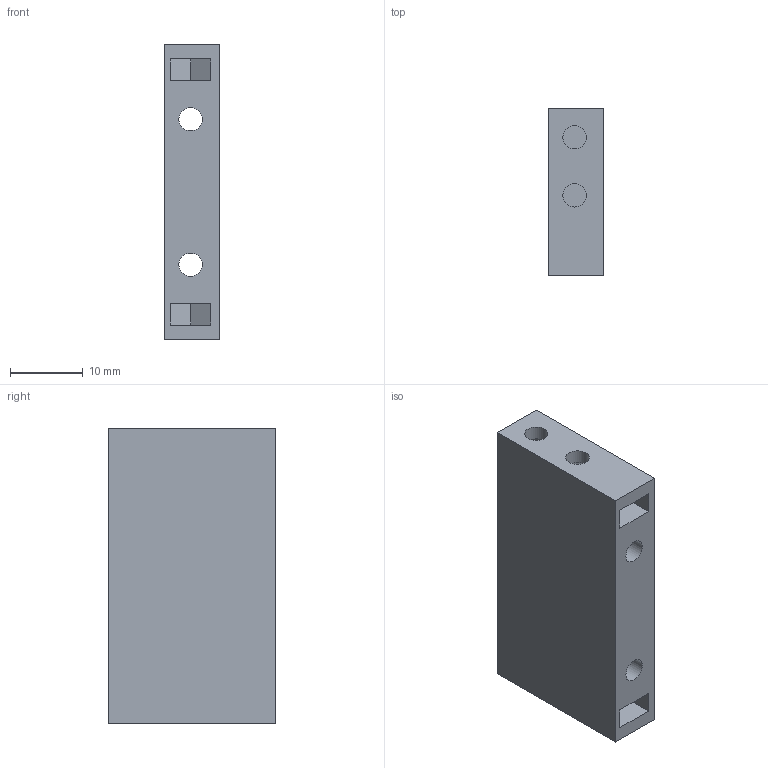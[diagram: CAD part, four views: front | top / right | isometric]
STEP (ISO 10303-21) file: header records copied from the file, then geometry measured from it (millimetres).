
FILE_DESCRIPTION(/* description */ (''),/* implementation_level */ '2;1');
FILE_NAME(/* name */ '4-32-1 Servo frame two.step',/* time_stamp */ '2025-05-10T22:19:49+02:00',/* author */ (''),/* organization */ (''),/* preprocessor_version */ 'ST-DEVELOPER v20.1',/* originating_system */ 'Autodesk Translation Framework v14.4.0.0',/* authorisation */ '');
FILE_SCHEMA (('AUTOMOTIVE_DESIGN { 1 0 10303 214 3 1 1 }'));
Length unit declared in the file: millimetre
Products named in the file (1): 4-32-1 Servo frame two
Bounding box: 7.6 x 23 x 40.6 mm (x, y, z)
Volume: 5770.6 mm3; surface area: 4065.9 mm2
Topology: 1 solids, 1 shells, 48 faces, 112 edges, 74 vertices
Faces by surface type: plane 34, cylinder 12, cone 2
Full cylindrical faces by diameter (mm): 3.2 x10, 6 x2
Entity records: 1430 total; most frequent: DIRECTION 236, CARTESIAN_POINT 235, ORIENTED_EDGE 224, EDGE_CURVE 112, LINE 86, VECTOR 86, AXIS2_PLACEMENT_3D 75, VERTEX_POINT 74
